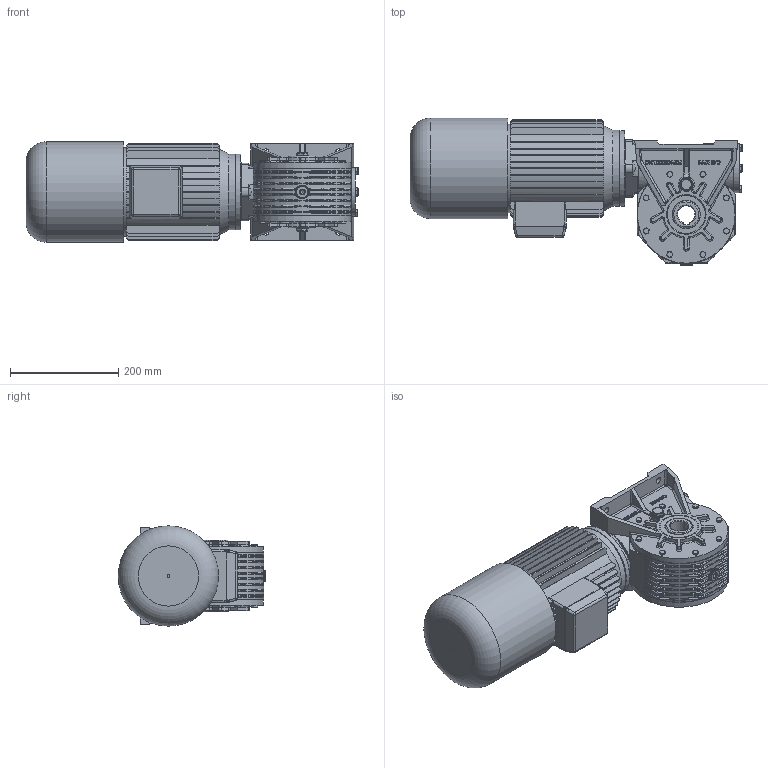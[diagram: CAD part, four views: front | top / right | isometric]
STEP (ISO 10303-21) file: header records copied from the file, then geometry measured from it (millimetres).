
FILE_DESCRIPTION((''),'2;1');
FILE_NAME('Y:\Archivi Inventor\Prog_01\GRAND_40\figurini\MRV40_SITO\90L_AUTOFRENANTE\MRV40_P1_90L_B14.stp','2013-02-06T14:29:07',('tech3'),(''),'Autodesk Inventor 2013','Autodesk Inventor 2013','');
FILE_SCHEMA(('AUTOMOTIVE_DESIGN { 1 0 10303 214 1 1 1 1 }'));
Length unit declared in the file: millimetre
Products named in the file (18): MRV40_90S_90L_B14; MRV40 figurino; 0104001.A0 figurino; 0104009.A0 figurino; 0104028; 0104029; fig_mozzo corona. MRV-RV40cusc_conici; PARAOLIO 35x47x8; PARAOLIO 50x70x10; Guarnizione 3_8 GAS; Tappo 3_8 GAS_esagn_incsst; Tappo3_8 GAS; 0104010.A0 figurino; UNI 5739  M6 x 20; UNI 5931  M 8 x  25; UNI 5739 M8 x 20; 0104006; motori B14 brake 90L
Assembly tree (47 placements, depth 3):
  MRV40_90S_90L_B14
    MRV40 figurino
      0104001.A0 figurino
      0104009.A0 figurino
      0104028  x2
      0104029  x2
      fig_mozzo corona. MRV-RV40cusc_conici
      PARAOLIO 35x47x8
      PARAOLIO 50x70x10  x2
      Guarnizione 3_8 GAS  x4
      Tappo 3_8 GAS_esagn_incsst  x2
      Tappo3_8 GAS  x2
      0104010.A0 figurino  x2
      UNI 5739  M6 x 20  x16
      UNI 5931  M 8 x  25  x4
      UNI 5739 M8 x 20  x4
    0104006
    motori B14 brake 90L
Bounding box: 612.1 x 272 x 185 mm (x, y, z)
Volume: 9209274.5 mm3; surface area: 1112105.3 mm2
Topology: 47 solids, 47 shells, 2754 faces, 6850 edges, 4212 vertices
Faces by surface type: plane 1340, cylinder 666, bspline 385, cone 196, torus 139, sphere 28
Full cylindrical faces by diameter (mm): 2 x2, 4.917 x16, 5 x1, 6 x16, 6.5 x32, 6.647 x4, 8 x10, 8.5 x12, 8.75 x4, 8.88 x16, 9 x4, 11.5 x4, 11.63 x4, 13 x4, 13.046 x2, 14.95 x4, 16.3 x4, 16.5 x2, 22 x8, 24 x1, 25 x2, 39.605 x1, 43.5 x1, 47 x2, 50 x1, 55 x1, 56.381 x2, 62 x3, 65 x2, 70 x4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
Entity records: 63149 total; most frequent: CARTESIAN_POINT 20468, ORIENTED_EDGE 8630, DIRECTION 8338, EDGE_CURVE 4315, AXIS2_PLACEMENT_3D 3051, VERTEX_POINT 2749, VECTOR 2236, LINE 2236
